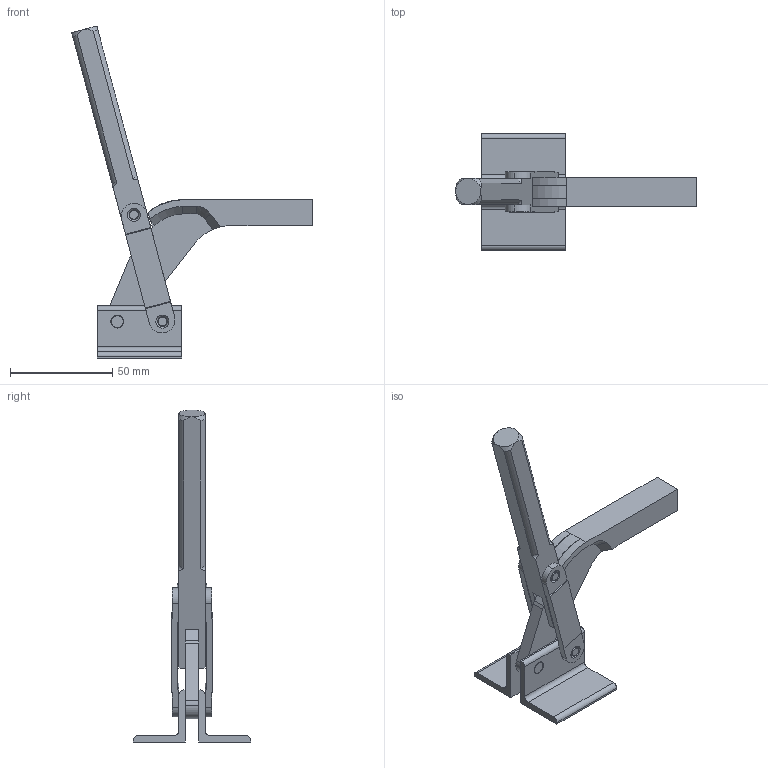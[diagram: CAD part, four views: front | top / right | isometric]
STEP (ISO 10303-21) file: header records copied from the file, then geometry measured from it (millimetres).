
FILE_DESCRIPTION( ( '' ), '1' );
FILE_NAME( 'C:\Documents and Settings\Richard Grenzke\My Documents\Wolverine Company Data\WOLVERINE CD 5_17_05\SOLIDS STEP\hold_down\c105a.stp', ' ', ( '' ), ( '' ), 'ACIS Interop R16', 'Kubotek KeyCreator V5.5.1 (0454)', ' ' );
FILE_SCHEMA( ( 'CONFIG_CONTROL_DESIGN' ) );
Length unit declared in the file: inch
Products named in the file (13): 1; 2; 3; 4; 5; 6; 7; 8; 9; 10; 11; 12; 13
Bounding box: 117.49 x 57.15 x 162.09 mm (x, y, z)
Volume: 55099 mm3; surface area: 28311.4 mm2
Topology: 12 solids, 12 shells, 181 faces, 481 edges, 324 vertices
Faces by surface type: plane 88, cylinder 65, cone 24, torus 4
Entity records: 6452 total; most frequent: CARTESIAN_POINT 1163, DIRECTION 1039, ORIENTED_EDGE 962, EDGE_CURVE 481, AXIS2_PLACEMENT_3D 388, VERTEX_POINT 324, LINE 263, VECTOR 263
